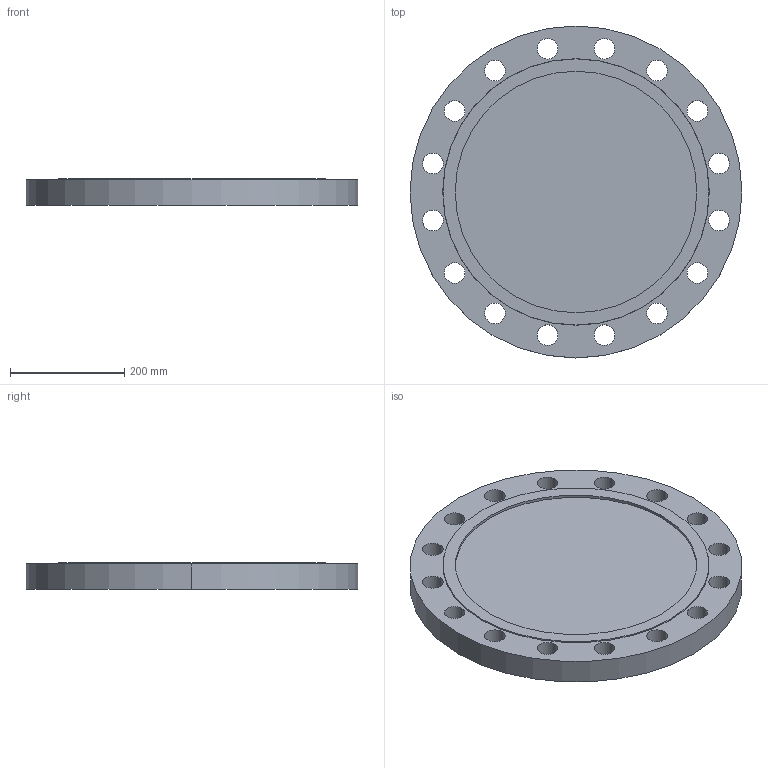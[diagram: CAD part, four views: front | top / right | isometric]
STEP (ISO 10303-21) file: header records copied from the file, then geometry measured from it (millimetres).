
FILE_DESCRIPTION (( 'STEP AP214' ), '1' );
FILE_NAME ('PN40 DN350 Type 05 - Type F Face.STEP', '2019-01-05T21:55:35', ( '' ), ( '' ), 'SwSTEP 2.0', 'SolidWorks 2019', '' );
FILE_SCHEMA (( 'AUTOMOTIVE_DESIGN' ));
Length unit declared in the file: millimetre
Products named in the file (1): PN40 DN350 Type 05 - Type F Face
Bounding box: 580 x 580 x 46 mm (x, y, z)
Volume: 10549391.4 mm3; surface area: 664720 mm2
Topology: 1 solids, 1 shells, 42 faces, 114 edges, 76 vertices
Faces by surface type: cylinder 36, plane 4, cone 2
Entity records: 1472 total; most frequent: DIRECTION 276, CARTESIAN_POINT 233, ORIENTED_EDGE 228, AXIS2_PLACEMENT_3D 119, EDGE_CURVE 114, CIRCLE 76, EDGE_LOOP 76, VERTEX_POINT 76
